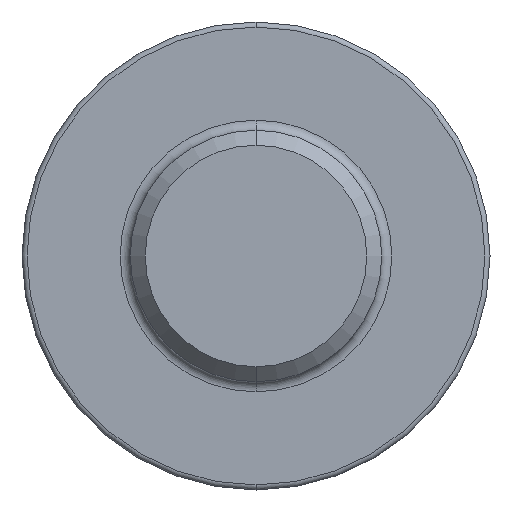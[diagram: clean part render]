
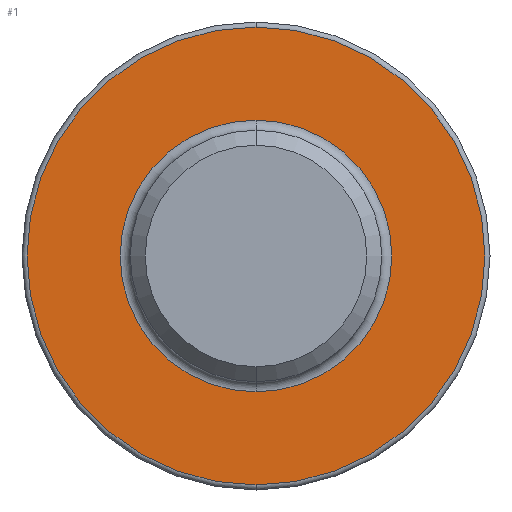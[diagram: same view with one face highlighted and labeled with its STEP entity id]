
A CAD part, front view. The second image highlights one B-rep face of the part: STEP entity #1.
In plain terms, the highlighted planar face has unit normal (0, -1, 0).
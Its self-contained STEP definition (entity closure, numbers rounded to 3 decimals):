
#1 = ADVANCED_FACE ( 'NONE', ( #86, #476 ), #147, .F. ) ;
#10 = CIRCLE ( 'NONE', #663, 2.7 ) ;
#12 = ORIENTED_EDGE ( 'NONE', *, *, #126, .T. ) ;
#25 = DIRECTION ( 'NONE',  ( 0., 0., 1. ) ) ;
#34 = CARTESIAN_POINT ( 'NONE',  ( 0., -2.7, 2.7 ) ) ;
#36 = AXIS2_PLACEMENT_3D ( 'NONE', #359, #180, #707 ) ;
#86 = FACE_BOUND ( 'NONE', #722, .T. ) ;
#87 = EDGE_LOOP ( 'NONE', ( #510, #12 ) ) ;
#115 = CARTESIAN_POINT ( 'NONE',  ( 0., -2.7, 0. ) ) ;
#122 = AXIS2_PLACEMENT_3D ( 'NONE', #115, #392, #570 ) ;
#126 = EDGE_CURVE ( 'NONE', #129, #672, #407, .T. ) ;
#129 = VERTEX_POINT ( 'NONE', #426 ) ;
#132 = DIRECTION ( 'NONE',  ( 0., -1., 0. ) ) ;
#147 = PLANE ( 'NONE',  #776 ) ;
#180 = DIRECTION ( 'NONE',  ( 0., -1., 0. ) ) ;
#205 = VERTEX_POINT ( 'NONE', #34 ) ;
#225 = ORIENTED_EDGE ( 'NONE', *, *, #795, .T. ) ;
#264 = DIRECTION ( 'NONE',  ( 0., 1., 0. ) ) ;
#326 = EDGE_CURVE ( 'NONE', #672, #129, #532, .T. ) ;
#340 = DIRECTION ( 'NONE',  ( 0., 1., 0. ) ) ;
#359 = CARTESIAN_POINT ( 'NONE',  ( 0., -2.7, 0. ) ) ;
#366 = EDGE_CURVE ( 'NONE', #455, #205, #10, .T. ) ;
#380 = CARTESIAN_POINT ( 'NONE',  ( 0., -2.7, 0. ) ) ;
#392 = DIRECTION ( 'NONE',  ( 0., 1., 0. ) ) ;
#405 = CARTESIAN_POINT ( 'NONE',  ( 0., -2.7, -2.7 ) ) ;
#407 = CIRCLE ( 'NONE', #36, 4.55 ) ;
#426 = CARTESIAN_POINT ( 'NONE',  ( 0., -2.7, -4.55 ) ) ;
#455 = VERTEX_POINT ( 'NONE', #405 ) ;
#476 = FACE_OUTER_BOUND ( 'NONE', #87, .T. ) ;
#510 = ORIENTED_EDGE ( 'NONE', *, *, #326, .T. ) ;
#517 = DIRECTION ( 'NONE',  ( 0., 0., 1. ) ) ;
#525 = ORIENTED_EDGE ( 'NONE', *, *, #366, .T. ) ;
#532 = CIRCLE ( 'NONE', #693, 4.55 ) ;
#569 = CIRCLE ( 'NONE', #122, 2.7 ) ;
#570 = DIRECTION ( 'NONE',  ( 0., 0., 1. ) ) ;
#647 = DIRECTION ( 'NONE',  ( 0., 0., 1. ) ) ;
#650 = CARTESIAN_POINT ( 'NONE',  ( 0., -2.7, 0. ) ) ;
#663 = AXIS2_PLACEMENT_3D ( 'NONE', #380, #264, #647 ) ;
#672 = VERTEX_POINT ( 'NONE', #840 ) ;
#685 = CARTESIAN_POINT ( 'NONE',  ( 2.5, -2.7, 0. ) ) ;
#693 = AXIS2_PLACEMENT_3D ( 'NONE', #650, #132, #517 ) ;
#707 = DIRECTION ( 'NONE',  ( 0., 0., 1. ) ) ;
#722 = EDGE_LOOP ( 'NONE', ( #225, #525 ) ) ;
#776 = AXIS2_PLACEMENT_3D ( 'NONE', #685, #340, #25 ) ;
#795 = EDGE_CURVE ( 'NONE', #205, #455, #569, .T. ) ;
#840 = CARTESIAN_POINT ( 'NONE',  ( 0., -2.7, 4.55 ) ) ;
